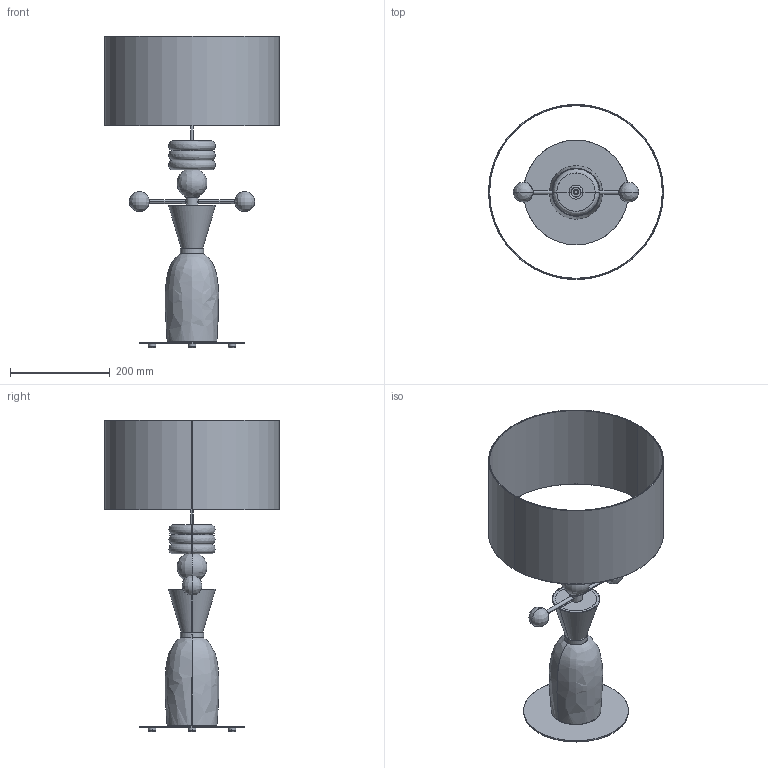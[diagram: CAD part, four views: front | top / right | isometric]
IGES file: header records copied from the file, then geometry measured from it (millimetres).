
Start section: SolidWorks IGES file using analytic representation for surfaces
Global section: file name: C:\Users\Agustin\Desktop\ARNOLD\SEPT 2025\2D-3D DEFINITIVO ONEDRIVE\2D-3D NURO_S1349\NURO_S1349.IGS; native system: SolidWorks 2018; preprocessor: SolidWorks 2018; author: Agustin; date: 250904.170544; units: millimetre
Bounding box: 350 x 350 x 624.49 mm (x, y, z)
Surface area: 824853.7 mm2 (no closed solid volume)
Topology: 0 solids, 0 shells, 741 faces, 6874 edges, 6877 vertices
Faces by surface type: bspline 723, revolution 18
